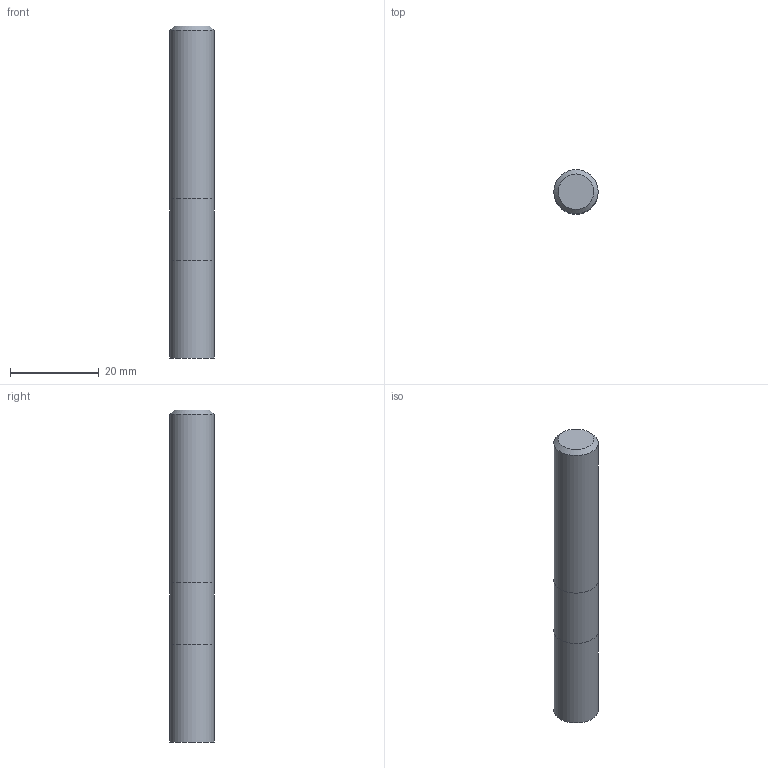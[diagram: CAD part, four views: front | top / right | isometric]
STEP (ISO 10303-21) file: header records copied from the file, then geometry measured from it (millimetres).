
FILE_DESCRIPTION((''),'2;1');
FILE_NAME('C:\Users\nsx150\AppData\Local\Temp\Mastercam 2021\98T1Q6BTT1\TEMP.step','2021-10-21T14:50:04',(''),(''),'STEP Write','Mastercam 2021 ... CNC Software, Inc.','');
FILE_SCHEMA(('AUTOMOTIVE_DESIGN'));
Length unit declared in the file: millimetre
Products named in the file (1): None
Bounding box: 10 x 10 x 75 mm (x, y, z)
Volume: 5875.8 mm3; surface area: 2650.6 mm2
Topology: 2 solids, 2 shells, 8 faces, 10 edges, 6 vertices
Faces by surface type: plane 4, cylinder 3, cone 1
Full cylindrical faces by diameter (mm): 10 x3
Entity records: 190 total; most frequent: DIRECTION 32, CARTESIAN_POINT 22, AXIS2_PLACEMENT_3D 16, ORIENTED_EDGE 12, EDGE_LOOP 12, STYLED_ITEM 11, ADVANCED_FACE 8, FACE_BOUND 7
